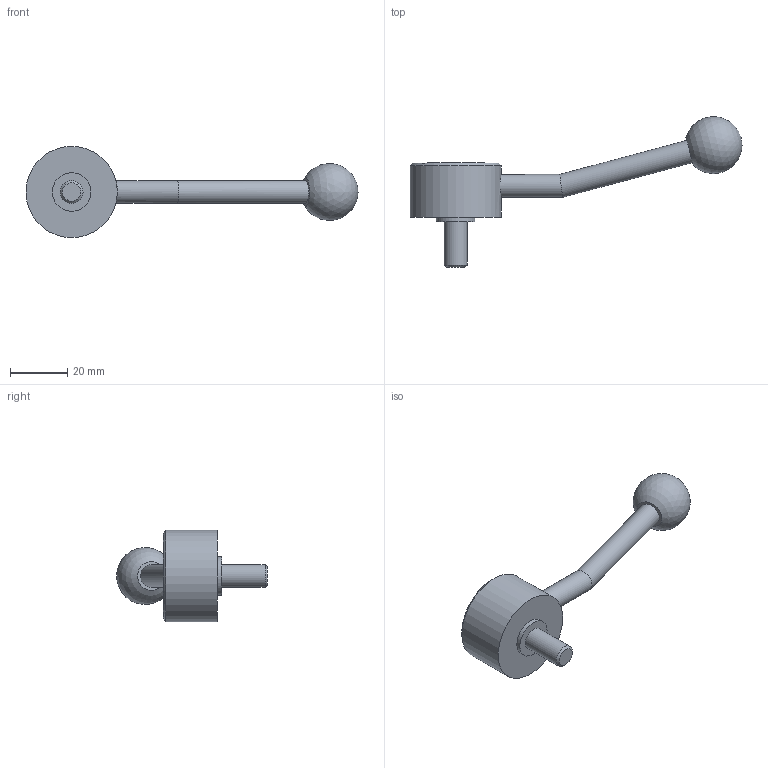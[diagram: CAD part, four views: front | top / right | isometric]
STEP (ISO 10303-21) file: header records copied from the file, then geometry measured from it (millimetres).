
FILE_DESCRIPTION( ( 'STEP AP203' ), '1' );
FILE_NAME( 'C:/Temp/Ganter_Step_05_03_2020/data/2_1/gn_125/gn_125_ms/gn_125_ms_e/Flat Adjustable Lever GN 125-32-M8-16-E.stp', '2020-03-05T11:00:53', ( 'License CC BY-ND 4.0' ), ( 'CADENAS' ), ' ', 'PARTsolutions', ' ' );
FILE_SCHEMA( ( 'CONFIG_CONTROL_DESIGN' ) );
Length unit declared in the file: millimetre
Products named in the file (1): _Flat Adjustable Lever GN 125-32-M8-16-E
Bounding box: 116.34 x 52.72 x 32 mm (x, y, z)
Volume: 23685.2 mm3; surface area: 6784.2 mm2
Topology: 1 solids, 1 shells, 15 faces, 26 edges, 17 vertices
Faces by surface type: cylinder 6, plane 6, cone 2, sphere 1
Full cylindrical faces by diameter (mm): 8 x3, 13.5 x1, 22 x1, 32 x1
Entity records: 404 total; most frequent: CARTESIAN_POINT 110, DIRECTION 58, AXIS2_PLACEMENT_3D 29, EDGE_LOOP 28, ORIENTED_EDGE 28, FACE_OUTER_BOUND 21, ADVANCED_FACE 15, VERTEX_POINT 15
